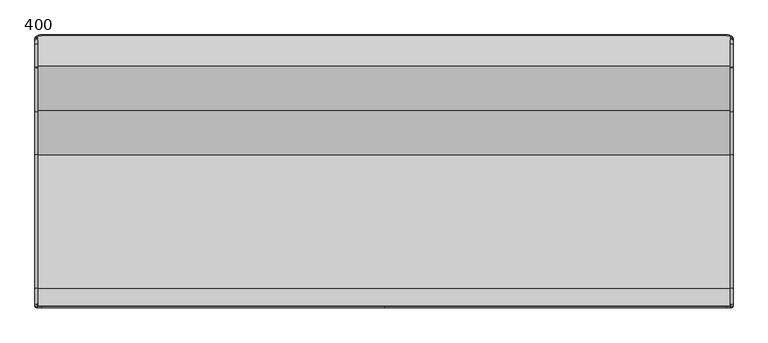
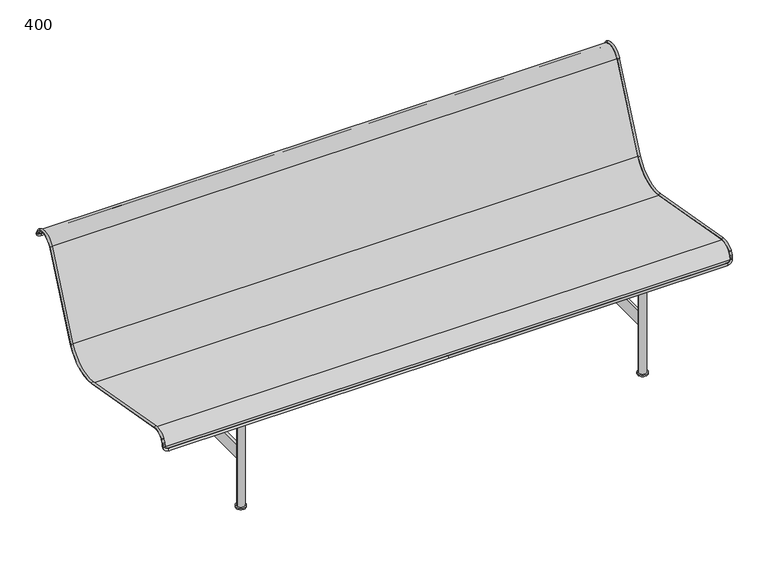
"""IFC4 building model written with IfcOpenShell, lengths in millimetres: furniture geometry, Vestre - Munch - 5116 : 400."""

from ifc_helpers import new_model, si_unit, point, frame, frame_2d, origin, origin_with_axes, place, context, project, spatial, polyline, circle_curve, ellipse_curve, trimmed, segment, composite_curve, outline, extrude, source, transform, mapped, element, save
from ifc_brep_helpers import cylinder_surface, revolved_surface, advanced_brep


def furniture_400_766ddce8(model_context):
    return source(origin(), model_context, "Body", "SolidModel", [
        advanced_brep(
        [(-999.5462493, 373.7937013, 682.4780585), (-999.5462493, 371.646043, 686.9933175), (-991.5462493, 371.646043, 686.9933175), (-991.5462493, 373.7937013, 682.4780585), (-991.5462493, 296.4612266, 676.0749425), (-991.5462493, 357.7572354, 700.2806419), (-999.5462493, 357.7572354, 700.2806419), (-999.5462493, 296.4612266, 676.0749425), (-999.5462493, 169.6234197, 391.1925638), (-991.5462493, 169.6234197, 391.1925638), (-999.5462493, 43.6034187, 324.1865407), (-991.5462493, 43.6034187, 324.1865407), (-999.5462493, -338.739978, 391.6039975), (-991.5462493, -338.739978, 391.6039975), (-999.5462493, -381.5432629, 374.8006881), (-991.5462493, -381.5432629, 374.8006881), (-991.5462493, -382.9815742, 372.5487627), (-999.5462493, -382.9815742, 372.5487627), (-999.5462493, -388.067645, 362.9832548), (-991.5462493, -388.067645, 362.9832548), (-991.5462493, -389.6972432, 357.1071135), (-999.5462493, -389.6972432, 357.1071135), (-999.5462493, -389.9613935, 352.0668255), (-991.5462493, -389.9613935, 352.0668255), (0.0, 384.102461, 660.8048152), (-980.5462493, 384.102461, 660.8048152), (-980.5462493, 380.6662078, 668.0292297), (0.0, 380.6662078, 668.0292297), (-991.5462493, 375.9413596, 677.9627995), (-999.5462493, 375.9413596, 677.9627995), (0.0, -391.0683935, 330.9440069), (-980.5462493, -391.0683935, 330.9440069), (-980.5462493, -390.6497059, 338.9330432), (0.0, -390.6497059, 338.9330432), (-991.5462493, -390.0740104, 349.9179681), (-999.5462493, -390.0740104, 349.9179681), (980.5462493, -390.6497059, 338.9330432), (980.5462493, -391.0683935, 330.9440069), (999.5462493, -390.0740104, 349.9179681), (991.5462493, -390.0740104, 349.9179681), (991.5462493, -389.9613935, 352.0668255), (999.5462493, -389.9613935, 352.0668255), (980.5462493, 380.6662078, 668.0292297), (980.5462493, 384.102461, 660.8048152), (999.5462493, 375.9413596, 677.9627995), (991.5462493, 375.9413596, 677.9627995), (991.5462493, 373.7937013, 682.4780585), (999.5462493, 373.7937013, 682.4780585), (991.5462493, 371.646043, 686.9933175), (999.5462493, 371.646043, 686.9933175), (999.5462493, 296.4612266, 676.0749425), (999.5462493, 357.7572354, 700.2806419), (991.5462493, 357.7572354, 700.2806419), (991.5462493, 296.4612266, 676.0749425), (991.5462493, 169.6234197, 391.1925638), (999.5462493, 169.6234197, 391.1925638), (991.5462493, 43.6034187, 324.1865407), (999.5462493, 43.6034187, 324.1865407), (991.5462493, -338.739978, 391.6039975), (999.5462493, -338.739978, 391.6039975), (991.5462493, -381.5432629, 374.8006881), (999.5462493, -381.5432629, 374.8006881), (999.5462493, -382.9815742, 372.5487627), (991.5462493, -382.9815742, 372.5487627), (991.5462493, -388.067645, 362.9832548), (999.5462493, -388.067645, 362.9832548), (999.5462493, -389.6972432, 357.1071135), (991.5462493, -389.6972432, 357.1071135)],
        [
            (0, 1),
            (1, 2, circle_curve(frame((-995.5462493, 371.646043, 686.9933175), z_axis=(0.0, 0.4295316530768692, -0.9030518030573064), x_axis=(1.0, 0.0, 0.0)), 4.0)),
            (2, 3),
            (3, 0, circle_curve(frame((-995.5462493, 373.7937013, 682.4780585), z_axis=(0.0, -0.4295316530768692, 0.9030518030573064), x_axis=(1.0, 0.0, 0.0)), 4.0)),
            (0, 3, circle_curve(frame((-995.5462493, 373.7937013, 682.4780585), z_axis=(0.0, -0.4295316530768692, 0.9030518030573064), x_axis=(1.0, 0.0, 0.0)), 4.0)),
            (2, 1, circle_curve(frame((-995.5462493, 371.646043, 686.9933175), z_axis=(0.0, 0.4295316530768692, -0.9030518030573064), x_axis=(1.0, 0.0, 0.0)), 4.0)),
            (4, 5, circle_curve(frame((-991.5462493, 339.4462618, 656.9367718), z_axis=(-1.0, 0.0, 0.0), x_axis=(0.0, 0.38915652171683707, 0.9211716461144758)), 47.0529789)),
            (5, 6, circle_curve(frame((-995.5462493, 357.7572354, 700.2806419), z_axis=(0.0, -0.9211716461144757, 0.3891565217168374), x_axis=(1.0, 0.0, 0.0)), 4.0)),
            (6, 7, circle_curve(frame((-999.5462493, 339.4462618, 656.9367718), z_axis=(1.0, 0.0, 0.0), x_axis=(0.0, 0.38915652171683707, 0.9211716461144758)), 47.0529789)),
            (7, 4, circle_curve(frame((-995.5462493, 296.4612266, 676.0749425), z_axis=(0.0, 0.40673664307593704, 0.9135454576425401), x_axis=(1.0, 0.0, 0.0)), 4.0)),
            (4, 7, circle_curve(frame((-995.5462493, 296.4612266, 676.0749425), z_axis=(0.0, 0.4067366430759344, 0.9135454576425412), x_axis=(1.0, 0.0, 0.0)), 4.0)),
            (6, 5, circle_curve(frame((-995.5462493, 357.7572354, 700.2806419), z_axis=(0.0, -0.9211716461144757, 0.3891565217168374), x_axis=(1.0, 0.0, 0.0)), 4.0)),
            (7, 8),
            (8, 9, circle_curve(frame((-995.5462493, 169.6234197, 391.1925638), z_axis=(0.0, 0.40673664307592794, 0.913545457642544), x_axis=(1.0, 0.0, 0.0)), 4.0)),
            (9, 4),
            (9, 8, circle_curve(frame((-995.5462493, 169.6234197, 391.1925638), z_axis=(0.0, 0.40673664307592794, 0.913545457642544), x_axis=(1.0, 0.0, 0.0)), 4.0)),
            (8, 10, circle_curve(frame((-999.5462493, 63.7315199, 438.3386751), z_axis=(-1.0, 0.0, 0.0), x_axis=(0.0, 0.9135454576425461, -0.40673664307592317)), 115.9131151)),
            (10, 11, circle_curve(frame((-995.5462493, 43.6034187, 324.1865407), z_axis=(0.0, 0.9848077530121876, -0.17364817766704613), x_axis=(1.0, 0.0, 0.0)), 4.0)),
            (11, 9, circle_curve(frame((-991.5462493, 63.7315199, 438.3386751), z_axis=(1.0, 0.0, 0.0), x_axis=(0.0, 0.9135454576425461, -0.40673664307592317)), 115.9131151)),
            (11, 10, circle_curve(frame((-995.5462493, 43.6034187, 324.1865407), z_axis=(0.0, 0.9848077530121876, -0.17364817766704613), x_axis=(1.0, 0.0, 0.0)), 4.0)),
            (10, 12),
            (12, 13, circle_curve(frame((-995.5462493, -338.739978, 391.6039975), z_axis=(0.0, 0.9848077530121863, -0.17364817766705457), x_axis=(1.0, 0.0, 0.0)), 4.0)),
            (13, 11),
            (13, 12, circle_curve(frame((-995.5462493, -338.739978, 391.6039975), z_axis=(0.0, 0.9848077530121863, -0.17364817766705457), x_axis=(1.0, 0.0, 0.0)), 4.0)),
            (12, 14, circle_curve(frame((-999.5462493, -346.3955852, 348.1868914), z_axis=(1.0, 0.0, 0.0), x_axis=(0.0, 0.17364817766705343, 0.9848077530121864)), 44.0868849)),
            (14, 15, circle_curve(frame((-995.5462493, -381.5432629, 374.8006881), z_axis=(0.0, 0.6036669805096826, 0.7972365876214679), x_axis=(1.0, 0.0, 0.0)), 4.0)),
            (15, 13, circle_curve(frame((-991.5462493, -346.3955852, 348.1868914), z_axis=(-1.0, 0.0, 0.0), x_axis=(0.0, 0.17364817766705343, 0.9848077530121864)), 44.0868849)),
            (15, 14, circle_curve(frame((-995.5462493, -381.5432629, 374.8006881), z_axis=(0.0, 0.6036669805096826, 0.7972365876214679), x_axis=(1.0, 0.0, 0.0)), 4.0)),
            (16, 17, circle_curve(frame((-995.5462493, -382.9815742, 372.5487627), z_axis=(0.0, -0.46947156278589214, -0.8829475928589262), x_axis=(1.0, 0.0, 0.0)), 4.0)),
            (17, 18),
            (18, 19, circle_curve(frame((-995.5462493, -388.067645, 362.9832548), z_axis=(0.0, 0.46947156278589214, 0.8829475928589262), x_axis=(1.0, 0.0, 0.0)), 4.0)),
            (19, 16),
            (17, 16, circle_curve(frame((-995.5462493, -382.9815742, 372.5487627), z_axis=(0.0, -0.46947156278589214, -0.8829475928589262), x_axis=(1.0, 0.0, 0.0)), 4.0)),
            (19, 18, circle_curve(frame((-995.5462493, -388.067645, 362.9832548), z_axis=(0.0, 0.46947156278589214, 0.8829475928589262), x_axis=(1.0, 0.0, 0.0)), 4.0)),
            (1, 6, circle_curve(frame((-999.5462493, 347.239684, 675.3845663), z_axis=(1.0, 0.0, 0.0), x_axis=(0.0, 0.9030518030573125, 0.4295316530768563)), 27.0265327)),
            (5, 2, circle_curve(frame((-991.5462493, 347.239684, 675.3845663), z_axis=(-1.0, 0.0, 0.0), x_axis=(0.0, 0.9030518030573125, 0.4295316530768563)), 27.0265327)),
            (14, 17, circle_curve(frame((-999.5462493, -368.164883, 364.6705883), z_axis=(1.0, 0.0, 0.0), x_axis=(0.0, -0.7972365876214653, 0.6036669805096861)), 16.7809407)),
            (16, 15, circle_curve(frame((-991.5462493, -368.164883, 364.6705883), z_axis=(-1.0, 0.0, 0.0), x_axis=(0.0, -0.7972365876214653, 0.6036669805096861)), 16.7809407)),
            (20, 21, circle_curve(frame((-995.5462493, -389.6972432, 357.1071135), z_axis=(0.0, -0.052335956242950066, -0.9986295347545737), x_axis=(1.0, 0.0, 0.0)), 4.0)),
            (21, 22),
            (22, 23, circle_curve(frame((-995.5462493, -389.9613935, 352.0668255), z_axis=(0.0, 0.052335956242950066, 0.9986295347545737), x_axis=(1.0, 0.0, 0.0)), 4.0)),
            (23, 20),
            (21, 20, circle_curve(frame((-995.5462493, -389.6972432, 357.1071135), z_axis=(0.0, -0.052335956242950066, -0.9986295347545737), x_axis=(1.0, 0.0, 0.0)), 4.0)),
            (23, 22, circle_curve(frame((-995.5462493, -389.9613935, 352.0668255), z_axis=(0.0, 0.052335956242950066, 0.9986295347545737), x_axis=(1.0, 0.0, 0.0)), 4.0)),
            (18, 21, circle_curve(frame((-999.5462493, -375.6296639, 356.3698629), z_axis=(1.0, 0.0, 0.0), x_axis=(0.0, -0.8829475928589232, 0.46947156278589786)), 14.0868849)),
            (20, 19, circle_curve(frame((-991.5462493, -375.6296639, 356.3698629), z_axis=(-1.0, 0.0, 0.0), x_axis=(0.0, -0.8829475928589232, 0.46947156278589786)), 14.0868849)),
            (24, 25),
            (25, 26, circle_curve(frame((-980.5462493, 382.3843344, 664.4170225), z_axis=(1.0, 0.0, 0.0), x_axis=(0.0, -0.4295316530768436, 0.9030518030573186)), 4.0)),
            (26, 27),
            (27, 24, circle_curve(frame((0.0, 382.3843344, 664.4170225), z_axis=(-1.0, 0.0, 0.0), x_axis=(0.0, -0.4295316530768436, 0.9030518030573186)), 4.0)),
            (24, 27, circle_curve(frame((0.0, 382.3843344, 664.4170225), z_axis=(-1.0, 0.0, 0.0), x_axis=(0.0, -0.4295316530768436, 0.9030518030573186)), 4.0)),
            (26, 25, circle_curve(frame((-980.5462493, 382.3843344, 664.4170225), z_axis=(1.0, 0.0, 0.0), x_axis=(0.0, -0.4295316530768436, 0.9030518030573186)), 4.0)),
            (28, 29, circle_curve(frame((-995.5462493, 375.9413596, 677.9627995), z_axis=(0.0, -0.42953165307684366, 0.9030518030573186), x_axis=(1.0, 0.0, 0.0)), 4.0)),
            (29, 0),
            (3, 28),
            (29, 28, circle_curve(frame((-995.5462493, 375.9413596, 677.9627995), z_axis=(0.0, -0.42953165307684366, 0.9030518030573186), x_axis=(1.0, 0.0, 0.0)), 4.0)),
            (25, 29, circle_curve(frame((-980.5462493, 375.9413596, 677.9627995), z_axis=(0.0, 0.9030518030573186, 0.4295316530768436), x_axis=(0.0, 0.4295316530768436, -0.9030518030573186)), 19.0)),
            (28, 26, circle_curve(frame((-980.5462493, 375.9413596, 677.9627995), z_axis=(0.0, -0.9030518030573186, -0.4295316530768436), x_axis=(0.0, 0.4295316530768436, -0.9030518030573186)), 11.0)),
            (30, 31),
            (31, 32, circle_curve(frame((-980.5462493, -390.8590497, 334.938525), z_axis=(1.0, 0.0, 0.0), x_axis=(0.0, 0.052335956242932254, 0.9986295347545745)), 4.0)),
            (32, 33),
            (33, 30, circle_curve(frame((0.0, -390.8590497, 334.938525), z_axis=(-1.0, 0.0, 0.0), x_axis=(0.0, 0.052335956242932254, 0.9986295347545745)), 4.0)),
            (30, 33, circle_curve(frame((0.0, -390.8590497, 334.938525), z_axis=(-1.0, 0.0, 0.0), x_axis=(0.0, 0.052335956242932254, 0.9986295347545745)), 4.0)),
            (32, 31, circle_curve(frame((-980.5462493, -390.8590497, 334.938525), z_axis=(1.0, 0.0, 0.0), x_axis=(0.0, 0.052335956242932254, 0.9986295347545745)), 4.0)),
            (34, 35, circle_curve(frame((-995.5462493, -390.0740104, 349.9179681), z_axis=(0.0, 0.05233595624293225, 0.9986295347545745), x_axis=(1.0, 0.0, 0.0)), 4.0)),
            (35, 22),
            (23, 34),
            (35, 34, circle_curve(frame((-995.5462493, -390.0740104, 349.9179681), z_axis=(0.0, 0.05233595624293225, 0.9986295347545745), x_axis=(1.0, 0.0, 0.0)), 4.0)),
            (31, 35, circle_curve(frame((-980.5462493, -390.0740104, 349.9179681), z_axis=(0.0, 0.9986295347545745, -0.052335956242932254), x_axis=(0.0, -0.052335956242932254, -0.9986295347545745)), 19.0)),
            (34, 32, circle_curve(frame((-980.5462493, -390.0740104, 349.9179681), z_axis=(0.0, -0.9986295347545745, 0.052335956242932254), x_axis=(0.0, -0.052335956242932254, -0.9986295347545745)), 11.0)),
            (33, 36),
            (36, 37, circle_curve(frame((980.5462493, -390.8590497, 334.938525), z_axis=(-1.0, 0.0, 0.0), x_axis=(0.0, 0.052335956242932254, 0.9986295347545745)), 4.0)),
            (37, 30),
            (37, 36, circle_curve(frame((980.5462493, -390.8590497, 334.938525), z_axis=(-1.0, 0.0, 0.0), x_axis=(0.0, 0.052335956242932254, 0.9986295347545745)), 4.0)),
            (38, 39, circle_curve(frame((995.5462493, -390.0740104, 349.9179681), z_axis=(0.0, 0.05233595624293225, 0.9986295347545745), x_axis=(-1.0, 0.0, 0.0)), 4.0)),
            (39, 40),
            (40, 41, circle_curve(frame((995.5462493, -389.9613935, 352.0668255), z_axis=(0.0, -0.05233595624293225, -0.9986295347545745), x_axis=(-1.0, 0.0, 0.0)), 4.0)),
            (41, 38),
            (39, 38, circle_curve(frame((995.5462493, -390.0740104, 349.9179681), z_axis=(0.0, 0.05233595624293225, 0.9986295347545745), x_axis=(-1.0, 0.0, 0.0)), 4.0)),
            (41, 40, circle_curve(frame((995.5462493, -389.9613935, 352.0668255), z_axis=(0.0, -0.05233595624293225, -0.9986295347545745), x_axis=(-1.0, 0.0, 0.0)), 4.0)),
            (36, 39, circle_curve(frame((980.5462493, -390.0740104, 349.9179681), z_axis=(0.0, -0.9986295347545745, 0.052335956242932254), x_axis=(0.0, -0.052335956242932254, -0.9986295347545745)), 11.0)),
            (38, 37, circle_curve(frame((980.5462493, -390.0740104, 349.9179681), z_axis=(0.0, 0.9986295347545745, -0.052335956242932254), x_axis=(0.0, -0.052335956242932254, -0.9986295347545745)), 19.0)),
            (27, 42),
            (42, 43, circle_curve(frame((980.5462493, 382.3843344, 664.4170225), z_axis=(-1.0, 0.0, 0.0), x_axis=(0.0, -0.4295316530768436, 0.9030518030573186)), 4.0)),
            (43, 24),
            (43, 42, circle_curve(frame((980.5462493, 382.3843344, 664.4170225), z_axis=(-1.0, 0.0, 0.0), x_axis=(0.0, -0.4295316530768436, 0.9030518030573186)), 4.0)),
            (44, 45, circle_curve(frame((995.5462493, 375.9413596, 677.9627995), z_axis=(0.0, -0.42953165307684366, 0.9030518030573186), x_axis=(-1.0, 0.0, 0.0)), 4.0)),
            (45, 46),
            (46, 47, circle_curve(frame((995.5462493, 373.7937013, 682.4780585), z_axis=(0.0, 0.42953165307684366, -0.9030518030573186), x_axis=(-1.0, 0.0, 0.0)), 4.0)),
            (47, 44),
            (45, 44, circle_curve(frame((995.5462493, 375.9413596, 677.9627995), z_axis=(0.0, -0.42953165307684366, 0.9030518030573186), x_axis=(-1.0, 0.0, 0.0)), 4.0)),
            (47, 46, circle_curve(frame((995.5462493, 373.7937013, 682.4780585), z_axis=(0.0, 0.42953165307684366, -0.9030518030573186), x_axis=(-1.0, 0.0, 0.0)), 4.0)),
            (42, 45, circle_curve(frame((980.5462493, 375.9413596, 677.9627995), z_axis=(0.0, -0.9030518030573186, -0.4295316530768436), x_axis=(0.0, 0.4295316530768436, -0.9030518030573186)), 11.0)),
            (44, 43, circle_curve(frame((980.5462493, 375.9413596, 677.9627995), z_axis=(0.0, 0.9030518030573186, 0.4295316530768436), x_axis=(0.0, 0.4295316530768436, -0.9030518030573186)), 19.0)),
            (46, 48),
            (48, 49, circle_curve(frame((995.5462493, 371.646043, 686.9933175), z_axis=(0.0, 0.4295316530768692, -0.9030518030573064), x_axis=(-1.0, 0.0, 0.0)), 4.0)),
            (49, 47),
            (49, 48, circle_curve(frame((995.5462493, 371.646043, 686.9933175), z_axis=(0.0, 0.4295316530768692, -0.9030518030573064), x_axis=(-1.0, 0.0, 0.0)), 4.0)),
            (50, 51, circle_curve(frame((999.5462493, 339.4462618, 656.9367718), z_axis=(-1.0, 0.0, 0.0), x_axis=(0.0, 0.38915652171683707, 0.9211716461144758)), 47.0529789)),
            (51, 52, circle_curve(frame((995.5462493, 357.7572354, 700.2806419), z_axis=(0.0, -0.9211716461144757, 0.3891565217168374), x_axis=(-1.0, 0.0, 0.0)), 4.0)),
            (52, 53, circle_curve(frame((991.5462493, 339.4462618, 656.9367718), z_axis=(1.0, 0.0, 0.0), x_axis=(0.0, 0.38915652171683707, 0.9211716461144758)), 47.0529789)),
            (53, 50, circle_curve(frame((995.5462493, 296.4612266, 676.0749425), z_axis=(0.0, 0.4067366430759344, 0.9135454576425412), x_axis=(-1.0, 0.0, 0.0)), 4.0)),
            (50, 53, circle_curve(frame((995.5462493, 296.4612266, 676.0749425), z_axis=(0.0, 0.4067366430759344, 0.9135454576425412), x_axis=(-1.0, 0.0, 0.0)), 4.0)),
            (52, 51, circle_curve(frame((995.5462493, 357.7572354, 700.2806419), z_axis=(0.0, -0.9211716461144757, 0.3891565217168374), x_axis=(-1.0, 0.0, 0.0)), 4.0)),
            (53, 54),
            (54, 55, circle_curve(frame((995.5462493, 169.6234197, 391.1925638), z_axis=(0.0, 0.40673664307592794, 0.913545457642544), x_axis=(-1.0, 0.0, 0.0)), 4.0)),
            (55, 50),
            (55, 54, circle_curve(frame((995.5462493, 169.6234197, 391.1925638), z_axis=(0.0, 0.40673664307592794, 0.913545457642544), x_axis=(-1.0, 0.0, 0.0)), 4.0)),
            (54, 56, circle_curve(frame((991.5462493, 63.7315199, 438.3386751), z_axis=(-1.0, 0.0, 0.0), x_axis=(0.0, 0.9135454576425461, -0.40673664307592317)), 115.9131151)),
            (56, 57, circle_curve(frame((995.5462493, 43.6034187, 324.1865407), z_axis=(0.0, 0.9848077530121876, -0.17364817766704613), x_axis=(-1.0, 0.0, 0.0)), 4.0)),
            (57, 55, circle_curve(frame((999.5462493, 63.7315199, 438.3386751), z_axis=(1.0, 0.0, 0.0), x_axis=(0.0, 0.9135454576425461, -0.40673664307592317)), 115.9131151)),
            (57, 56, circle_curve(frame((995.5462493, 43.6034187, 324.1865407), z_axis=(0.0, 0.9848077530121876, -0.17364817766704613), x_axis=(-1.0, 0.0, 0.0)), 4.0)),
            (56, 58),
            (58, 59, circle_curve(frame((995.5462493, -338.739978, 391.6039975), z_axis=(0.0, 0.9848077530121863, -0.17364817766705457), x_axis=(-1.0, 0.0, 0.0)), 4.0)),
            (59, 57),
            (59, 58, circle_curve(frame((995.5462493, -338.739978, 391.6039975), z_axis=(0.0, 0.9848077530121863, -0.17364817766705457), x_axis=(-1.0, 0.0, 0.0)), 4.0)),
            (58, 60, circle_curve(frame((991.5462493, -346.3955852, 348.1868914), z_axis=(1.0, 0.0, 0.0), x_axis=(0.0, 0.17364817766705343, 0.9848077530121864)), 44.0868849)),
            (60, 61, circle_curve(frame((995.5462493, -381.5432629, 374.8006881), z_axis=(0.0, 0.6036669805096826, 0.7972365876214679), x_axis=(-1.0, 0.0, 0.0)), 4.0)),
            (61, 59, circle_curve(frame((999.5462493, -346.3955852, 348.1868914), z_axis=(-1.0, 0.0, 0.0), x_axis=(0.0, 0.17364817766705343, 0.9848077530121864)), 44.0868849)),
            (61, 60, circle_curve(frame((995.5462493, -381.5432629, 374.8006881), z_axis=(0.0, 0.6036669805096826, 0.7972365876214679), x_axis=(-1.0, 0.0, 0.0)), 4.0)),
            (62, 63, circle_curve(frame((995.5462493, -382.9815742, 372.5487627), z_axis=(0.0, -0.46947156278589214, -0.8829475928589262), x_axis=(-1.0, 0.0, 0.0)), 4.0)),
            (63, 64),
            (64, 65, circle_curve(frame((995.5462493, -388.067645, 362.9832548), z_axis=(0.0, 0.46947156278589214, 0.8829475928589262), x_axis=(-1.0, 0.0, 0.0)), 4.0)),
            (65, 62),
            (63, 62, circle_curve(frame((995.5462493, -382.9815742, 372.5487627), z_axis=(0.0, -0.46947156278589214, -0.8829475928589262), x_axis=(-1.0, 0.0, 0.0)), 4.0)),
            (65, 64, circle_curve(frame((995.5462493, -388.067645, 362.9832548), z_axis=(0.0, 0.46947156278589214, 0.8829475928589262), x_axis=(-1.0, 0.0, 0.0)), 4.0)),
            (48, 52, circle_curve(frame((991.5462493, 347.239684, 675.3845663), z_axis=(1.0, 0.0, 0.0), x_axis=(0.0, 0.9030518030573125, 0.4295316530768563)), 27.0265327)),
            (51, 49, circle_curve(frame((999.5462493, 347.239684, 675.3845663), z_axis=(-1.0, 0.0, 0.0), x_axis=(0.0, 0.9030518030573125, 0.4295316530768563)), 27.0265327)),
            (60, 63, circle_curve(frame((991.5462493, -368.164883, 364.6705883), z_axis=(1.0, 0.0, 0.0), x_axis=(0.0, -0.7972365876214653, 0.6036669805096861)), 16.7809407)),
            (62, 61, circle_curve(frame((999.5462493, -368.164883, 364.6705883), z_axis=(-1.0, 0.0, 0.0), x_axis=(0.0, -0.7972365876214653, 0.6036669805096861)), 16.7809407)),
            (66, 67, circle_curve(frame((995.5462493, -389.6972432, 357.1071135), z_axis=(0.0, -0.052335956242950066, -0.9986295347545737), x_axis=(-1.0, 0.0, 0.0)), 4.0)),
            (67, 40),
            (41, 66),
            (67, 66, circle_curve(frame((995.5462493, -389.6972432, 357.1071135), z_axis=(0.0, -0.052335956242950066, -0.9986295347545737), x_axis=(-1.0, 0.0, 0.0)), 4.0)),
            (64, 67, circle_curve(frame((991.5462493, -375.6296639, 356.3698629), z_axis=(1.0, 0.0, 0.0), x_axis=(0.0, -0.8829475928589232, 0.46947156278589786)), 14.0868849)),
            (66, 65, circle_curve(frame((999.5462493, -375.6296639, 356.3698629), z_axis=(-1.0, 0.0, 0.0), x_axis=(0.0, -0.8829475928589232, 0.46947156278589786)), 14.0868849)),
        ],
        [
            cylinder_surface(frame((-995.5462493, 373.7937013, 682.4780585), z_axis=(0.0, 0.4295316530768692, -0.9030518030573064), x_axis=(1.0, 0.0, 0.0)), 4.0),
            revolved_surface(trimmed(ellipse_curve(frame((-995.5462493, 357.7572354, 700.2806419), z_axis=(0.0, 0.9211716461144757, -0.3891565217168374), x_axis=(1.0, 0.0, 0.0)), 4.0, 4.0), [point((-999.5462493, 357.7572354, 700.2806419))], [point((-991.5462493, 357.7572354, 700.2806419))], True, "CARTESIAN"), (-646.1061414, 339.4462618, 656.9367718), (1.0, 0.0, 0.0)),
            revolved_surface(trimmed(ellipse_curve(frame((-995.5462493, 357.7572354, 700.2806419), z_axis=(0.0, 0.9211716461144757, -0.3891565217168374), x_axis=(1.0, 0.0, 0.0)), 4.0, 4.0), [point((-991.5462493, 357.7572354, 700.2806419))], [point((-999.5462493, 357.7572354, 700.2806419))], True, "CARTESIAN"), (-646.1061414, 339.4462618, 656.9367718), (1.0, 0.0, 0.0)),
            cylinder_surface(frame((-995.5462493, 296.4612266, 676.0749425), z_axis=(0.0, 0.40673664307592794, 0.913545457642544), x_axis=(1.0, 0.0, 0.0)), 4.0),
            revolved_surface(trimmed(ellipse_curve(frame((-995.5462493, 169.6234197, 391.1925638), z_axis=(0.0, 0.4067366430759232, 0.9135454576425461), x_axis=(1.0, 0.0, 0.0)), 4.0, 4.0), [point((-999.5462493, 169.6234197, 391.1925638))], [point((-991.5462493, 169.6234197, 391.1925638))], True, "CARTESIAN"), (-646.1061414, 63.7315199, 438.3386751), (-1.0, 0.0, 0.0)),
            revolved_surface(trimmed(ellipse_curve(frame((-995.5462493, 169.6234197, 391.1925638), z_axis=(0.0, 0.4067366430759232, 0.9135454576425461), x_axis=(1.0, 0.0, 0.0)), 4.0, 4.0), [point((-991.5462493, 169.6234197, 391.1925638))], [point((-999.5462493, 169.6234197, 391.1925638))], True, "CARTESIAN"), (-646.1061414, 63.7315199, 438.3386751), (-1.0, 0.0, 0.0)),
            cylinder_surface(frame((-995.5462493, 43.6034187, 324.1865407), z_axis=(0.0, 0.9848077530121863, -0.17364817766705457), x_axis=(1.0, 0.0, 0.0)), 4.0),
            revolved_surface(trimmed(ellipse_curve(frame((-995.5462493, -338.739978, 391.6039975), z_axis=(0.0, 0.9848077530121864, -0.17364817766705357), x_axis=(1.0, 0.0, 0.0)), 4.0, 4.0), [point((-999.5462493, -338.739978, 391.6039975))], [point((-991.5462493, -338.739978, 391.6039975))], True, "CARTESIAN"), (-646.1061414, -346.3955852, 348.1868914), (1.0, 0.0, 0.0)),
            revolved_surface(trimmed(ellipse_curve(frame((-995.5462493, -338.739978, 391.6039975), z_axis=(0.0, 0.9848077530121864, -0.17364817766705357), x_axis=(1.0, 0.0, 0.0)), 4.0, 4.0), [point((-991.5462493, -338.739978, 391.6039975))], [point((-999.5462493, -338.739978, 391.6039975))], True, "CARTESIAN"), (-646.1061414, -346.3955852, 348.1868914), (1.0, 0.0, 0.0)),
            cylinder_surface(frame((-995.5462493, -382.9815742, 372.5487627), z_axis=(0.0, 0.46947156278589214, 0.8829475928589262), x_axis=(1.0, 0.0, 0.0)), 4.0),
            revolved_surface(trimmed(ellipse_curve(frame((-995.5462493, 371.646043, 686.9933175), z_axis=(0.0, 0.4295316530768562, -0.9030518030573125), x_axis=(1.0, 0.0, 0.0)), 4.0, 4.0), [point((-999.5462493, 371.646043, 686.9933175))], [point((-991.5462493, 371.646043, 686.9933175))], True, "CARTESIAN"), (-646.1061414, 347.239684, 675.3845663), (1.0, 0.0, 0.0)),
            revolved_surface(trimmed(ellipse_curve(frame((-995.5462493, 371.646043, 686.9933175), z_axis=(0.0, 0.4295316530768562, -0.9030518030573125), x_axis=(1.0, 0.0, 0.0)), 4.0, 4.0), [point((-991.5462493, 371.646043, 686.9933175))], [point((-999.5462493, 371.646043, 686.9933175))], True, "CARTESIAN"), (-646.1061414, 347.239684, 675.3845663), (1.0, 0.0, 0.0)),
            revolved_surface(trimmed(ellipse_curve(frame((-995.5462493, -381.5432629, 374.8006881), z_axis=(0.0, 0.6036669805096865, 0.7972365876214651), x_axis=(1.0, 0.0, 0.0)), 4.0, 4.0), [point((-999.5462493, -381.5432629, 374.8006881))], [point((-991.5462493, -381.5432629, 374.8006881))], True, "CARTESIAN"), (-646.1061414, -368.164883, 364.6705883), (1.0, 0.0, 0.0)),
            revolved_surface(trimmed(ellipse_curve(frame((-995.5462493, -381.5432629, 374.8006881), z_axis=(0.0, 0.6036669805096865, 0.7972365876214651), x_axis=(1.0, 0.0, 0.0)), 4.0, 4.0), [point((-991.5462493, -381.5432629, 374.8006881))], [point((-999.5462493, -381.5432629, 374.8006881))], True, "CARTESIAN"), (-646.1061414, -368.164883, 364.6705883), (1.0, 0.0, 0.0)),
            cylinder_surface(frame((-995.5462493, -389.6972432, 357.1071135), z_axis=(0.0, 0.052335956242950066, 0.9986295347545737), x_axis=(1.0, 0.0, 0.0)), 4.0),
            revolved_surface(trimmed(ellipse_curve(frame((-995.5462493, -388.067645, 362.9832548), z_axis=(0.0, 0.46947156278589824, 0.882947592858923), x_axis=(1.0, 0.0, 0.0)), 4.0, 4.0), [point((-999.5462493, -388.067645, 362.9832548))], [point((-991.5462493, -388.067645, 362.9832548))], True, "CARTESIAN"), (-646.1061414, -375.6296639, 356.3698629), (1.0, 0.0, 0.0)),
            revolved_surface(trimmed(ellipse_curve(frame((-995.5462493, -388.067645, 362.9832548), z_axis=(0.0, 0.46947156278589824, 0.882947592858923), x_axis=(1.0, 0.0, 0.0)), 4.0, 4.0), [point((-991.5462493, -388.067645, 362.9832548))], [point((-999.5462493, -388.067645, 362.9832548))], True, "CARTESIAN"), (-646.1061414, -375.6296639, 356.3698629), (1.0, 0.0, 0.0)),
            cylinder_surface(frame((0.0, 382.3843344, 664.4170225), z_axis=(1.0, 0.0, 0.0), x_axis=(0.0, -0.4295316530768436, 0.9030518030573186)), 4.0),
            cylinder_surface(frame((-995.5462493, 375.9413596, 677.9627995), z_axis=(0.0, 0.42953165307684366, -0.9030518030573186), x_axis=(1.0, 0.0, 0.0)), 4.0),
            revolved_surface(trimmed(ellipse_curve(frame((-980.5462493, 382.3843344, 664.4170225), z_axis=(1.0, 0.0, 0.0), x_axis=(0.0, -0.4295316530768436, 0.9030518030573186)), 4.0, 4.0), [point((-980.5462493, 384.102461, 660.8048152))], [point((-980.5462493, 380.6662078, 668.0292297))], True, "CARTESIAN"), (-980.5462493, -297.7152046, 357.5417377), (0.0, 0.9030518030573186, 0.4295316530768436)),
            revolved_surface(trimmed(ellipse_curve(frame((-980.5462493, 382.3843344, 664.4170225), z_axis=(1.0, 0.0, 0.0), x_axis=(0.0, -0.4295316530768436, 0.9030518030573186)), 4.0, 4.0), [point((-980.5462493, 380.6662078, 668.0292297))], [point((-980.5462493, 384.102461, 660.8048152))], True, "CARTESIAN"), (-980.5462493, -297.7152046, 357.5417377), (0.0, 0.9030518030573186, 0.4295316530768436)),
            cylinder_surface(frame((0.0, -390.8590497, 334.938525), z_axis=(1.0, 0.0, 0.0), x_axis=(0.0, 0.052335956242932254, 0.9986295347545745)), 4.0),
            cylinder_surface(frame((-995.5462493, -390.0740104, 349.9179681), z_axis=(0.0, -0.05233595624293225, -0.9986295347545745), x_axis=(1.0, 0.0, 0.0)), 4.0),
            revolved_surface(trimmed(ellipse_curve(frame((-980.5462493, -390.8590497, 334.938525), z_axis=(1.0, 0.0, 0.0), x_axis=(0.0, 0.052335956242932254, 0.9986295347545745)), 4.0, 4.0), [point((-980.5462493, -391.0683935, 330.9440069))], [point((-980.5462493, -390.6497059, 338.9330432))], True, "CARTESIAN"), (-980.5462493, -1135.0294371, 388.9594276), (0.0, 0.9986295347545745, -0.052335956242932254)),
            revolved_surface(trimmed(ellipse_curve(frame((-980.5462493, -390.8590497, 334.938525), z_axis=(1.0, 0.0, 0.0), x_axis=(0.0, 0.052335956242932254, 0.9986295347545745)), 4.0, 4.0), [point((-980.5462493, -390.6497059, 338.9330432))], [point((-980.5462493, -391.0683935, 330.9440069))], True, "CARTESIAN"), (-980.5462493, -1135.0294371, 388.9594276), (0.0, 0.9986295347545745, -0.052335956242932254)),
            cylinder_surface(frame((0.0, -390.8590497, 334.938525), z_axis=(-1.0, 0.0, 0.0), x_axis=(0.0, 0.052335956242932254, 0.9986295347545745)), 4.0),
            cylinder_surface(frame((995.5462493, -390.0740104, 349.9179681), z_axis=(0.0, -0.05233595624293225, -0.9986295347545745), x_axis=(-1.0, 0.0, 0.0)), 4.0),
            revolved_surface(trimmed(ellipse_curve(frame((980.5462493, -390.8590497, 334.938525), z_axis=(-1.0, 0.0, 0.0), x_axis=(0.0, 0.052335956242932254, 0.9986295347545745)), 4.0, 4.0), [point((980.5462493, -390.6497059, 338.9330432))], [point((980.5462493, -391.0683935, 330.9440069))], True, "CARTESIAN"), (980.5462493, -1135.0294371, 388.9594276), (0.0, -0.9986295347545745, 0.052335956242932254)),
            revolved_surface(trimmed(ellipse_curve(frame((980.5462493, -390.8590497, 334.938525), z_axis=(-1.0, 0.0, 0.0), x_axis=(0.0, 0.052335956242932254, 0.9986295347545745)), 4.0, 4.0), [point((980.5462493, -391.0683935, 330.9440069))], [point((980.5462493, -390.6497059, 338.9330432))], True, "CARTESIAN"), (980.5462493, -1135.0294371, 388.9594276), (0.0, -0.9986295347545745, 0.052335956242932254)),
            cylinder_surface(frame((0.0, 382.3843344, 664.4170225), z_axis=(-1.0, 0.0, 0.0), x_axis=(0.0, -0.4295316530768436, 0.9030518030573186)), 4.0),
            cylinder_surface(frame((995.5462493, 375.9413596, 677.9627995), z_axis=(0.0, 0.42953165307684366, -0.9030518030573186), x_axis=(-1.0, 0.0, 0.0)), 4.0),
            revolved_surface(trimmed(ellipse_curve(frame((980.5462493, 382.3843344, 664.4170225), z_axis=(-1.0, 0.0, 0.0), x_axis=(0.0, -0.4295316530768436, 0.9030518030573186)), 4.0, 4.0), [point((980.5462493, 380.6662078, 668.0292297))], [point((980.5462493, 384.102461, 660.8048152))], True, "CARTESIAN"), (980.5462493, -297.7152046, 357.5417377), (0.0, -0.9030518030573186, -0.4295316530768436)),
            revolved_surface(trimmed(ellipse_curve(frame((980.5462493, 382.3843344, 664.4170225), z_axis=(-1.0, 0.0, 0.0), x_axis=(0.0, -0.4295316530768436, 0.9030518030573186)), 4.0, 4.0), [point((980.5462493, 384.102461, 660.8048152))], [point((980.5462493, 380.6662078, 668.0292297))], True, "CARTESIAN"), (980.5462493, -297.7152046, 357.5417377), (0.0, -0.9030518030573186, -0.4295316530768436)),
            cylinder_surface(frame((995.5462493, 373.7937013, 682.4780585), z_axis=(0.0, 0.4295316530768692, -0.9030518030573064), x_axis=(-1.0, 0.0, 0.0)), 4.0),
            revolved_surface(trimmed(ellipse_curve(frame((995.5462493, 357.7572354, 700.2806419), z_axis=(0.0, 0.9211716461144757, -0.3891565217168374), x_axis=(-1.0, 0.0, 0.0)), 4.0, 4.0), [point((991.5462493, 357.7572354, 700.2806419))], [point((999.5462493, 357.7572354, 700.2806419))], True, "CARTESIAN"), (646.1061414, 339.4462618, 656.9367718), (1.0, 0.0, 0.0)),
            revolved_surface(trimmed(ellipse_curve(frame((995.5462493, 357.7572354, 700.2806419), z_axis=(0.0, 0.9211716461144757, -0.3891565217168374), x_axis=(-1.0, 0.0, 0.0)), 4.0, 4.0), [point((999.5462493, 357.7572354, 700.2806419))], [point((991.5462493, 357.7572354, 700.2806419))], True, "CARTESIAN"), (646.1061414, 339.4462618, 656.9367718), (1.0, 0.0, 0.0)),
            cylinder_surface(frame((995.5462493, 296.4612266, 676.0749425), z_axis=(0.0, 0.40673664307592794, 0.913545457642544), x_axis=(-1.0, 0.0, 0.0)), 4.0),
            revolved_surface(trimmed(ellipse_curve(frame((995.5462493, 169.6234197, 391.1925638), z_axis=(0.0, 0.4067366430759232, 0.9135454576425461), x_axis=(-1.0, 0.0, 0.0)), 4.0, 4.0), [point((991.5462493, 169.6234197, 391.1925638))], [point((999.5462493, 169.6234197, 391.1925638))], True, "CARTESIAN"), (646.1061414, 63.7315199, 438.3386751), (-1.0, 0.0, 0.0)),
            revolved_surface(trimmed(ellipse_curve(frame((995.5462493, 169.6234197, 391.1925638), z_axis=(0.0, 0.4067366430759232, 0.9135454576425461), x_axis=(-1.0, 0.0, 0.0)), 4.0, 4.0), [point((999.5462493, 169.6234197, 391.1925638))], [point((991.5462493, 169.6234197, 391.1925638))], True, "CARTESIAN"), (646.1061414, 63.7315199, 438.3386751), (-1.0, 0.0, 0.0)),
            cylinder_surface(frame((995.5462493, 43.6034187, 324.1865407), z_axis=(0.0, 0.9848077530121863, -0.17364817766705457), x_axis=(-1.0, 0.0, 0.0)), 4.0),
            revolved_surface(trimmed(ellipse_curve(frame((995.5462493, -338.739978, 391.6039975), z_axis=(0.0, 0.9848077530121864, -0.17364817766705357), x_axis=(-1.0, 0.0, 0.0)), 4.0, 4.0), [point((991.5462493, -338.739978, 391.6039975))], [point((999.5462493, -338.739978, 391.6039975))], True, "CARTESIAN"), (646.1061414, -346.3955852, 348.1868914), (1.0, 0.0, 0.0)),
            revolved_surface(trimmed(ellipse_curve(frame((995.5462493, -338.739978, 391.6039975), z_axis=(0.0, 0.9848077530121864, -0.17364817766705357), x_axis=(-1.0, 0.0, 0.0)), 4.0, 4.0), [point((999.5462493, -338.739978, 391.6039975))], [point((991.5462493, -338.739978, 391.6039975))], True, "CARTESIAN"), (646.1061414, -346.3955852, 348.1868914), (1.0, 0.0, 0.0)),
            cylinder_surface(frame((995.5462493, -382.9815742, 372.5487627), z_axis=(0.0, 0.46947156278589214, 0.8829475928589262), x_axis=(-1.0, 0.0, 0.0)), 4.0),
            revolved_surface(trimmed(ellipse_curve(frame((995.5462493, 371.646043, 686.9933175), z_axis=(0.0, 0.4295316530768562, -0.9030518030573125), x_axis=(-1.0, 0.0, 0.0)), 4.0, 4.0), [point((991.5462493, 371.646043, 686.9933175))], [point((999.5462493, 371.646043, 686.9933175))], True, "CARTESIAN"), (646.1061414, 347.239684, 675.3845663), (1.0, 0.0, 0.0)),
            revolved_surface(trimmed(ellipse_curve(frame((995.5462493, 371.646043, 686.9933175), z_axis=(0.0, 0.4295316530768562, -0.9030518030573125), x_axis=(-1.0, 0.0, 0.0)), 4.0, 4.0), [point((999.5462493, 371.646043, 686.9933175))], [point((991.5462493, 371.646043, 686.9933175))], True, "CARTESIAN"), (646.1061414, 347.239684, 675.3845663), (1.0, 0.0, 0.0)),
            revolved_surface(trimmed(ellipse_curve(frame((995.5462493, -381.5432629, 374.8006881), z_axis=(0.0, 0.6036669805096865, 0.7972365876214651), x_axis=(-1.0, 0.0, 0.0)), 4.0, 4.0), [point((991.5462493, -381.5432629, 374.8006881))], [point((999.5462493, -381.5432629, 374.8006881))], True, "CARTESIAN"), (646.1061414, -368.164883, 364.6705883), (1.0, 0.0, 0.0)),
            revolved_surface(trimmed(ellipse_curve(frame((995.5462493, -381.5432629, 374.8006881), z_axis=(0.0, 0.6036669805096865, 0.7972365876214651), x_axis=(-1.0, 0.0, 0.0)), 4.0, 4.0), [point((999.5462493, -381.5432629, 374.8006881))], [point((991.5462493, -381.5432629, 374.8006881))], True, "CARTESIAN"), (646.1061414, -368.164883, 364.6705883), (1.0, 0.0, 0.0)),
            cylinder_surface(frame((995.5462493, -389.6972432, 357.1071135), z_axis=(0.0, 0.052335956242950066, 0.9986295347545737), x_axis=(-1.0, 0.0, 0.0)), 4.0),
            revolved_surface(trimmed(ellipse_curve(frame((995.5462493, -388.067645, 362.9832548), z_axis=(0.0, 0.46947156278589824, 0.882947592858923), x_axis=(-1.0, 0.0, 0.0)), 4.0, 4.0), [point((991.5462493, -388.067645, 362.9832548))], [point((999.5462493, -388.067645, 362.9832548))], True, "CARTESIAN"), (646.1061414, -375.6296639, 356.3698629), (1.0, 0.0, 0.0)),
            revolved_surface(trimmed(ellipse_curve(frame((995.5462493, -388.067645, 362.9832548), z_axis=(0.0, 0.46947156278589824, 0.882947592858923), x_axis=(-1.0, 0.0, 0.0)), 4.0, 4.0), [point((999.5462493, -388.067645, 362.9832548))], [point((991.5462493, -388.067645, 362.9832548))], True, "CARTESIAN"), (646.1061414, -375.6296639, 356.3698629), (1.0, 0.0, 0.0)),
        ],
        [
            (0, [[1, 2, 3, 4]]),
            (0, [[-1, 5, -3, 6]]),
            (1, [[7, 8, 9, 10]]),
            (2, [[-7, 11, -9, 12]]),
            (3, [[-10, 13, 14, 15]]),
            (3, [[-11, -15, 16, -13]]),
            (4, [[-14, 17, 18, 19]]),
            (5, [[-16, -19, 20, -17]]),
            (6, [[-18, 21, 22, 23]]),
            (6, [[-20, -23, 24, -21]]),
            (7, [[-22, 25, 26, 27]]),
            (8, [[-24, -27, 28, -25]]),
            (9, [[29, 30, 31, 32]]),
            (9, [[-30, 33, -32, 34]]),
            (10, [[-2, 35, -8, 36]]),
            (11, [[-6, -36, -12, -35]]),
            (12, [[-26, 37, -29, 38]]),
            (13, [[-28, -38, -33, -37]]),
            (14, [[39, 40, 41, 42]]),
            (14, [[-40, 43, -42, 44]]),
            (15, [[-31, 45, -39, 46]]),
            (16, [[-34, -46, -43, -45]]),
            (17, [[47, 48, 49, 50]]),
            (17, [[-47, 51, -49, 52]]),
            (18, [[53, 54, -4, 55]]),
            (18, [[-54, 56, -55, -5]]),
            (19, [[-48, 57, -53, 58]]),
            (20, [[-52, -58, -56, -57]]),
            (21, [[59, 60, 61, 62]]),
            (21, [[-59, 63, -61, 64]]),
            (22, [[65, 66, -44, 67]]),
            (22, [[-66, 68, -67, -41]]),
            (23, [[-60, 69, -65, 70]]),
            (24, [[-64, -70, -68, -69]]),
            (25, [[71, 72, 73, -62]]),
            (25, [[-71, -63, -73, 74]]),
            (26, [[75, 76, 77, 78]]),
            (26, [[-76, 79, -78, 80]]),
            (27, [[-72, 81, -75, 82]]),
            (28, [[-74, -82, -79, -81]]),
            (29, [[83, 84, 85, -50]]),
            (29, [[-83, -51, -85, 86]]),
            (30, [[87, 88, 89, 90]]),
            (30, [[-88, 91, -90, 92]]),
            (31, [[-84, 93, -87, 94]]),
            (32, [[-86, -94, -91, -93]]),
            (33, [[95, 96, 97, -89]]),
            (33, [[-95, -92, -97, 98]]),
            (34, [[99, 100, 101, 102]]),
            (35, [[-99, 103, -101, 104]]),
            (36, [[-102, 105, 106, 107]]),
            (36, [[-103, -107, 108, -105]]),
            (37, [[-106, 109, 110, 111]]),
            (38, [[-108, -111, 112, -109]]),
            (39, [[-110, 113, 114, 115]]),
            (39, [[-112, -115, 116, -113]]),
            (40, [[-114, 117, 118, 119]]),
            (41, [[-116, -119, 120, -117]]),
            (42, [[121, 122, 123, 124]]),
            (42, [[-122, 125, -124, 126]]),
            (43, [[-96, 127, -100, 128]]),
            (44, [[-98, -128, -104, -127]]),
            (45, [[-118, 129, -121, 130]]),
            (46, [[-120, -130, -125, -129]]),
            (47, [[131, 132, -80, 133]]),
            (47, [[-132, 134, -133, -77]]),
            (48, [[-123, 135, -131, 136]]),
            (49, [[-126, -136, -134, -135]]),
        ],
    ),
        extrude(outline(composite_curve([segment(trimmed(circle_curve(frame_2d((705.0000448, 345.3323767)), 10.0), [point((715.0000448, 345.3323767))], [point((695.0000448, 345.3323767))], False, "CARTESIAN"), True, "CONTINUOUS"), segment(trimmed(circle_curve(frame_2d((705.0000448, 345.3323767)), 10.0), [point((695.0000448, 345.3323767))], [point((715.0000448, 345.3323767))], False, "CARTESIAN"), True, "CONTINUOUS")], self_intersect=False)), origin_with_axes(), (0.0, 0.0, 1.0), 5.0095249),
        extrude(outline(composite_curve([segment(trimmed(circle_curve(frame_2d((705.0000448, 345.3323767)), 17.5), [point((722.5000448, 345.3323767))], [point((687.5000448, 345.3323767))], False, "CARTESIAN"), True, "CONTINUOUS"), segment(trimmed(circle_curve(frame_2d((705.0000448, 345.3323767)), 17.5), [point((687.5000448, 345.3323767))], [point((722.5000448, 345.3323767))], False, "CARTESIAN"), True, "CONTINUOUS")], self_intersect=False)), frame((0.0, 0.0, 5.0095249), z_axis=(0.0, 0.0, 1.0), x_axis=(1.0, 0.0, 0.0)), (0.0, 0.0, 1.0), 4.9904751),
        extrude(outline(composite_curve([segment(trimmed(circle_curve(frame_2d((705.0000448, 345.3323767)), 13.0), [point((718.0000448, 345.3323767))], [point((692.0000448, 345.3323767))], False, "CARTESIAN"), True, "CONTINUOUS"), segment(trimmed(circle_curve(frame_2d((705.0000448, 345.3323767)), 13.0), [point((692.0000448, 345.3323767))], [point((718.0000448, 345.3323767))], False, "CARTESIAN"), True, "CONTINUOUS")], self_intersect=False)), frame((0.0, 0.0, 10.0), z_axis=(0.0, 0.0, 1.0), x_axis=(1.0, 0.0, 0.0)), (0.0, 0.0, 1.0), 672.2046016),
        extrude(outline(composite_curve([segment(trimmed(circle_curve(frame_2d((705.0000448, -354.6676233)), 10.0), [point((715.0000448, -354.6676233))], [point((695.0000448, -354.6676233))], False, "CARTESIAN"), True, "CONTINUOUS"), segment(trimmed(circle_curve(frame_2d((705.0000448, -354.6676233)), 10.0), [point((695.0000448, -354.6676233))], [point((715.0000448, -354.6676233))], False, "CARTESIAN"), True, "CONTINUOUS")], self_intersect=False)), origin_with_axes(), (0.0, 0.0, 1.0), 5.0095249),
        extrude(outline(composite_curve([segment(trimmed(circle_curve(frame_2d((705.0000448, -354.6676233)), 17.5), [point((722.5000448, -354.6676233))], [point((687.5000448, -354.6676233))], False, "CARTESIAN"), True, "CONTINUOUS"), segment(trimmed(circle_curve(frame_2d((705.0000448, -354.6676233)), 17.5), [point((687.5000448, -354.6676233))], [point((722.5000448, -354.6676233))], False, "CARTESIAN"), True, "CONTINUOUS")], self_intersect=False)), frame((0.0, 0.0, 5.0095249), z_axis=(0.0, 0.0, 1.0), x_axis=(1.0, 0.0, 0.0)), (0.0, 0.0, 1.0), 4.9904751),
        extrude(outline(composite_curve([segment(trimmed(circle_curve(frame_2d((705.0000448, -354.6676233)), 13.0), [point((718.0000448, -354.6676233))], [point((692.0000448, -354.6676233))], False, "CARTESIAN"), True, "CONTINUOUS"), segment(trimmed(circle_curve(frame_2d((705.0000448, -354.6676233)), 13.0), [point((692.0000448, -354.6676233))], [point((718.0000448, -354.6676233))], False, "CARTESIAN"), True, "CONTINUOUS")], self_intersect=False)), frame((0.0, 0.0, 10.0), z_axis=(0.0, 0.0, 1.0), x_axis=(1.0, 0.0, 0.0)), (0.0, 0.0, 1.0), 357.3979993),
        extrude(outline(polyline([(701.0251424, -343.4225488), (701.0251424, 334.0873022), (708.8751424, 334.0873022), (708.8751424, -343.4225488), (701.0251424, -343.4225488)])), frame((0.0, 0.0, 175.0), z_axis=(0.0, 0.0, 1.0), x_axis=(1.0, 0.0, 0.0)), (0.0, 0.0, 1.0), 50.0),
        extrude(outline(composite_curve([segment(trimmed(circle_curve(frame_2d((-704.9999552, 345.3323767)), 10.0), [point((-714.9999552, 345.3323767))], [point((-694.9999552, 345.3323767))], False, "CARTESIAN"), True, "CONTINUOUS"), segment(trimmed(circle_curve(frame_2d((-704.9999552, 345.3323767)), 10.0), [point((-694.9999552, 345.3323767))], [point((-714.9999552, 345.3323767))], False, "CARTESIAN"), True, "CONTINUOUS")], self_intersect=False)), origin_with_axes(), (0.0, 0.0, 1.0), 5.0095249),
        extrude(outline(composite_curve([segment(trimmed(circle_curve(frame_2d((-704.9999552, 345.3323767)), 17.5), [point((-722.4999552, 345.3323767))], [point((-687.4999552, 345.3323767))], False, "CARTESIAN"), True, "CONTINUOUS"), segment(trimmed(circle_curve(frame_2d((-704.9999552, 345.3323767)), 17.5), [point((-687.4999552, 345.3323767))], [point((-722.4999552, 345.3323767))], False, "CARTESIAN"), True, "CONTINUOUS")], self_intersect=False)), frame((0.0, 0.0, 5.0095249), z_axis=(0.0, 0.0, 1.0), x_axis=(1.0, 0.0, 0.0)), (0.0, 0.0, 1.0), 4.9904751),
        extrude(outline(composite_curve([segment(trimmed(circle_curve(frame_2d((-704.9999552, 345.3323767)), 13.0), [point((-717.9999552, 345.3323767))], [point((-691.9999552, 345.3323767))], False, "CARTESIAN"), True, "CONTINUOUS"), segment(trimmed(circle_curve(frame_2d((-704.9999552, 345.3323767)), 13.0), [point((-691.9999552, 345.3323767))], [point((-717.9999552, 345.3323767))], False, "CARTESIAN"), True, "CONTINUOUS")], self_intersect=False)), frame((0.0, 0.0, 10.0), z_axis=(0.0, 0.0, 1.0), x_axis=(1.0, 0.0, 0.0)), (0.0, 0.0, 1.0), 672.2046016),
        extrude(outline(composite_curve([segment(trimmed(circle_curve(frame_2d((-704.9999552, -354.6676233)), 10.0), [point((-714.9999552, -354.6676233))], [point((-694.9999552, -354.6676233))], False, "CARTESIAN"), True, "CONTINUOUS"), segment(trimmed(circle_curve(frame_2d((-704.9999552, -354.6676233)), 10.0), [point((-694.9999552, -354.6676233))], [point((-714.9999552, -354.6676233))], False, "CARTESIAN"), True, "CONTINUOUS")], self_intersect=False)), origin_with_axes(), (0.0, 0.0, 1.0), 5.0095249),
        extrude(outline(composite_curve([segment(trimmed(circle_curve(frame_2d((-704.9999552, -354.6676233)), 17.5), [point((-722.4999552, -354.6676233))], [point((-687.4999552, -354.6676233))], False, "CARTESIAN"), True, "CONTINUOUS"), segment(trimmed(circle_curve(frame_2d((-704.9999552, -354.6676233)), 17.5), [point((-687.4999552, -354.6676233))], [point((-722.4999552, -354.6676233))], False, "CARTESIAN"), True, "CONTINUOUS")], self_intersect=False)), frame((0.0, 0.0, 5.0095249), z_axis=(0.0, 0.0, 1.0), x_axis=(1.0, 0.0, 0.0)), (0.0, 0.0, 1.0), 4.9904751),
        extrude(outline(composite_curve([segment(trimmed(circle_curve(frame_2d((-704.9999552, -354.6676233)), 13.0), [point((-717.9999552, -354.6676233))], [point((-691.9999552, -354.6676233))], False, "CARTESIAN"), True, "CONTINUOUS"), segment(trimmed(circle_curve(frame_2d((-704.9999552, -354.6676233)), 13.0), [point((-691.9999552, -354.6676233))], [point((-717.9999552, -354.6676233))], False, "CARTESIAN"), True, "CONTINUOUS")], self_intersect=False)), frame((0.0, 0.0, 10.0), z_axis=(0.0, 0.0, 1.0), x_axis=(1.0, 0.0, 0.0)), (0.0, 0.0, 1.0), 357.3979993),
        extrude(outline(polyline([(701.0251424, -146.5626978), (701.0251424, -156.9225488), (-701.0250529, -156.9225488), (-701.0250529, -146.5626978), (701.0251424, -146.5626978)])), frame((0.0, 0.0, 175.0), z_axis=(0.0, 0.0, 1.0), x_axis=(1.0, 0.0, 0.0)), (0.0, 0.0, 1.0), 50.0),
        extrude(outline(polyline([(701.0251424, 224.5123022), (701.0251424, 214.1524512), (-701.0250529, 214.1524512), (-701.0250529, 224.5123022), (701.0251424, 224.5123022)])), frame((0.0, 0.0, 175.0), z_axis=(0.0, 0.0, 1.0), x_axis=(1.0, 0.0, 0.0)), (0.0, 0.0, 1.0), 50.0),
        extrude(outline(polyline([(-701.0250529, 334.0873022), (-701.0250529, -343.4225488), (-708.8750529, -343.4225488), (-708.8750529, 334.0873022), (-701.0250529, 334.0873022)])), frame((0.0, 0.0, 175.0), z_axis=(0.0, 0.0, 1.0), x_axis=(1.0, 0.0, 0.0)), (0.0, 0.0, 1.0), 50.0),
        extrude(outline(composite_curve([segment(trimmed(circle_curve(frame_2d((-354.6676233, 367.15)), 16.85), [point((-337.8176233, 367.15))], [point((-371.5176233, 367.15))], False, "CARTESIAN"), True, "CONTINUOUS"), segment(trimmed(circle_curve(frame_2d((-354.6676233, 367.15)), 16.85), [point((-371.5176233, 367.15))], [point((-337.8176233, 367.15))], False, "CARTESIAN"), True, "CONTINUOUS")], self_intersect=False)), frame((-899.9999552, 0.0, 0.0), z_axis=(1.0, 0.0, 0.0), x_axis=(0.0, 1.0, 0.0)), (0.0, 0.0, 1.0), 1800.0),
        extrude(outline(composite_curve([segment(trimmed(circle_curve(frame_2d((345.3323767, 682.15)), 16.85), [point((362.1823767, 682.15))], [point((328.4823767, 682.15))], False, "CARTESIAN"), True, "CONTINUOUS"), segment(trimmed(circle_curve(frame_2d((345.3323767, 682.15)), 16.85), [point((328.4823767, 682.15))], [point((362.1823767, 682.15))], False, "CARTESIAN"), True, "CONTINUOUS")], self_intersect=False)), frame((-899.9999552, 0.0, 0.0), z_axis=(1.0, 0.0, 0.0), x_axis=(0.0, 1.0, 0.0)), (0.0, 0.0, 1.0), 1800.0),
        extrude(outline(composite_curve([segment(polyline([(42.8937386, 320.1617448), (-339.4496581, 387.5792015)]), True, "CONTINUOUS"), segment(trimmed(circle_curve(frame_2d((-346.3955852, 348.1868914)), 40.0), [point((-339.4496581, 387.5792015))], [point((-386.3712183, 346.7909115))], True, "CARTESIAN"), True, "CONTINUOUS"), segment(polyline([(-386.3712183, 346.7909115), (-386.050511, 337.6070561), (-389.0523396, 337.6070561), (-389.3693908, 346.686213)]), True, "CONTINUOUS"), segment(trimmed(circle_curve(frame_2d((-346.3955852, 348.1868914)), 43.0), [point((-389.3693908, 346.686213))], [point((-338.9287136, 390.5336248))], False, "CARTESIAN"), True, "CONTINUOUS"), segment(polyline([(-338.9287136, 390.5336248), (43.4146832, 323.116168)]), True, "CONTINUOUS"), segment(trimmed(circle_curve(frame_2d((63.7315199, 438.3386751)), 117.0), [point((43.4146832, 323.116168))], [point((170.6163385, 390.7504879))], True, "CARTESIAN"), True, "CONTINUOUS"), segment(polyline([(170.6163385, 390.7504879), (297.4541454, 675.6328666)]), True, "CONTINUOUS"), segment(trimmed(circle_curve(frame_2d((339.4462618, 656.9367718)), 45.966094), [point((297.4541454, 675.6328666))], [point((383.6317073, 669.6067444))], False, "CARTESIAN"), True, "CONTINUOUS"), segment(polyline([(383.6317073, 669.6067444), (384.3964859, 666.9396443), (381.5127009, 666.1127322), (380.7479222, 668.7798324)]), True, "CONTINUOUS"), segment(trimmed(circle_curve(frame_2d((339.4462618, 656.9367718)), 42.966094), [point((380.7479222, 668.7798324))], [point((300.1947818, 674.4126567))], True, "CARTESIAN"), True, "CONTINUOUS"), segment(polyline([(300.1947818, 674.4126567), (173.3569749, 389.530278)]), True, "CONTINUOUS"), segment(trimmed(circle_curve(frame_2d((63.7315199, 438.3386751)), 120.0), [point((173.3569749, 389.530278))], [point((42.8937386, 320.1617448))], False, "CARTESIAN"), True, "CONTINUOUS")], self_intersect=False)), frame((-991.6344372, 0.0, 0.0), z_axis=(1.0, 0.0, 0.0), x_axis=(0.0, 1.0, 0.0)), (0.0, 0.0, 1.0), 1983.1889335),
    ])


if __name__ == "__main__":
    model = new_model("IFC4")
    model_context = context("Model", 3, world=origin())
    ifc_project = project(units=[si_unit("LENGTHUNIT", "METRE", prefix="MILLI")], contexts=[model_context])
    site = spatial("IfcSite", under=ifc_project)
    building = spatial("IfcBuilding", under=site)
    placement = place(None, origin())
    furniture_400_shape = furniture_400_766ddce8(model_context)
    element("IfcFurniture", 1, ObjectType="Vestre - Munch - 5116 : 400", at=placement, inside=building, context=model_context, shape_type="MappedRepresentation", body=[
        mapped(furniture_400_shape, transform((0.0, 0.0, 0.0), x_axis=(1.0, 0.0, 0.0), y_axis=(0.0, 1.0, 0.0), z_axis=(0.0, 0.0, 1.0))),
    ])
    save(model, "model.ifc")
